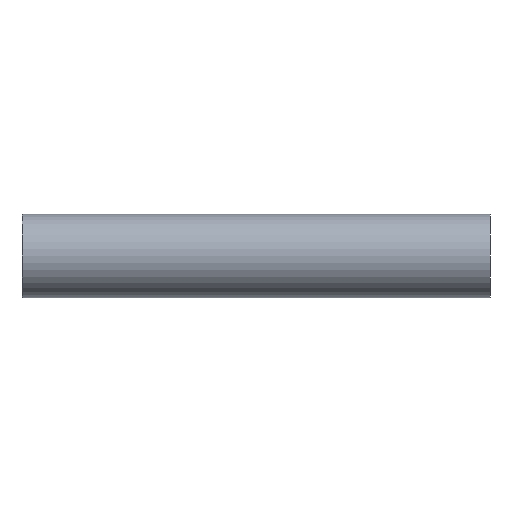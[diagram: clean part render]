
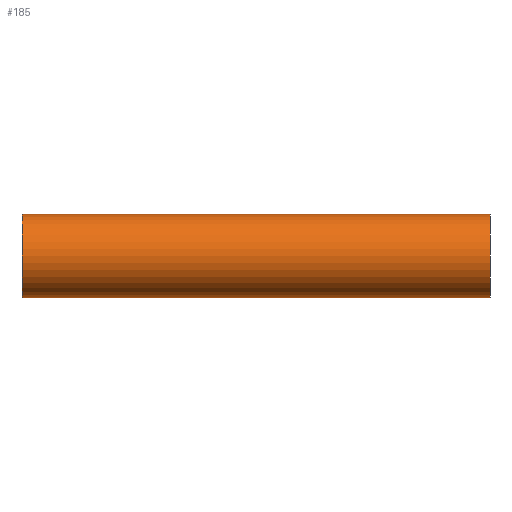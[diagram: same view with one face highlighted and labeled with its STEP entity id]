
A CAD part, front view. The second image highlights one B-rep face of the part: STEP entity #185.
In plain terms, the highlighted cylindrical face has radius 9.525 mm (diameter 19.05 mm), a partial arc.
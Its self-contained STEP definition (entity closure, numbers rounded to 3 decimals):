
#4 = AXIS2_PLACEMENT_3D ( 'NONE', #98, #69, #67 ) ;
#24 = CIRCLE ( 'NONE', #4, 9.525 ) ;
#56 = FACE_OUTER_BOUND ( 'NONE', #100, .T. ) ;
#67 = DIRECTION ( 'NONE',  ( 0., 0., 1. ) ) ;
#69 = DIRECTION ( 'NONE',  ( -1., 0., 0. ) ) ;
#70 = DIRECTION ( 'NONE',  ( 0., 0., 1. ) ) ;
#76 = ORIENTED_EDGE ( 'NONE', *, *, #161, .T. ) ;
#79 = ORIENTED_EDGE ( 'NONE', *, *, #115, .F. ) ;
#86 = VERTEX_POINT ( 'NONE', #201 ) ;
#97 = CARTESIAN_POINT ( 'NONE',  ( -53.5, 0., 0. ) ) ;
#98 = CARTESIAN_POINT ( 'NONE',  ( 53.5, 0., 0. ) ) ;
#100 = EDGE_LOOP ( 'NONE', ( #79, #356, #250, #76 ) ) ;
#102 = EDGE_CURVE ( 'NONE', #86, #449, #348, .T. ) ;
#104 = DIRECTION ( 'NONE',  ( -1., 0., 0. ) ) ;
#105 = CARTESIAN_POINT ( 'NONE',  ( -53.5, 0., -9.525 ) ) ;
#115 = EDGE_CURVE ( 'NONE', #238, #398, #328, .T. ) ;
#118 = DIRECTION ( 'NONE',  ( 1., 0., 0. ) ) ;
#133 = CIRCLE ( 'NONE', #318, 9.525 ) ;
#161 = EDGE_CURVE ( 'NONE', #449, #398, #133, .T. ) ;
#185 = ADVANCED_FACE ( 'NONE', ( #56 ), #399, .T. ) ;
#201 = CARTESIAN_POINT ( 'NONE',  ( 53.5, 0., 9.525 ) ) ;
#238 = VERTEX_POINT ( 'NONE', #317 ) ;
#250 = ORIENTED_EDGE ( 'NONE', *, *, #102, .T. ) ;
#297 = VECTOR ( 'NONE', #104, 1000. ) ;
#299 = CARTESIAN_POINT ( 'NONE',  ( 80.441, 0., 9.525 ) ) ;
#305 = DIRECTION ( 'NONE',  ( -1., 0., 0. ) ) ;
#317 = CARTESIAN_POINT ( 'NONE',  ( 53.5, 0., -9.525 ) ) ;
#318 = AXIS2_PLACEMENT_3D ( 'NONE', #97, #118, #70 ) ;
#326 = DIRECTION ( 'NONE',  ( 0., 0., 1. ) ) ;
#328 = LINE ( 'NONE', #401, #429 ) ;
#346 = DIRECTION ( 'NONE',  ( -1., 0., 0. ) ) ;
#348 = LINE ( 'NONE', #299, #297 ) ;
#349 = CARTESIAN_POINT ( 'NONE',  ( 80.441, 0., 0. ) ) ;
#356 = ORIENTED_EDGE ( 'NONE', *, *, #379, .T. ) ;
#359 = AXIS2_PLACEMENT_3D ( 'NONE', #349, #346, #326 ) ;
#379 = EDGE_CURVE ( 'NONE', #238, #86, #24, .T. ) ;
#398 = VERTEX_POINT ( 'NONE', #105 ) ;
#399 = CYLINDRICAL_SURFACE ( 'NONE', #359, 9.525 ) ;
#401 = CARTESIAN_POINT ( 'NONE',  ( 80.441, 0., -9.525 ) ) ;
#429 = VECTOR ( 'NONE', #305, 1000. ) ;
#449 = VERTEX_POINT ( 'NONE', #462 ) ;
#462 = CARTESIAN_POINT ( 'NONE',  ( -53.5, 0., 9.525 ) ) ;
